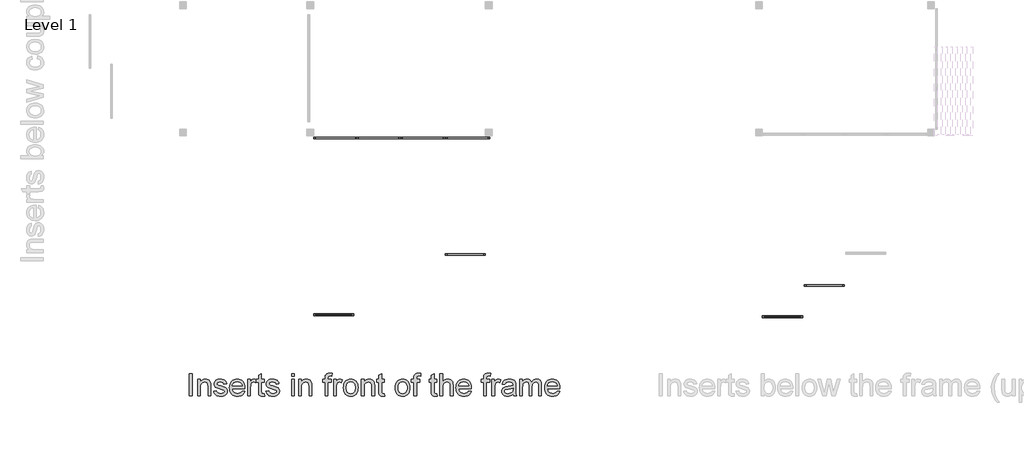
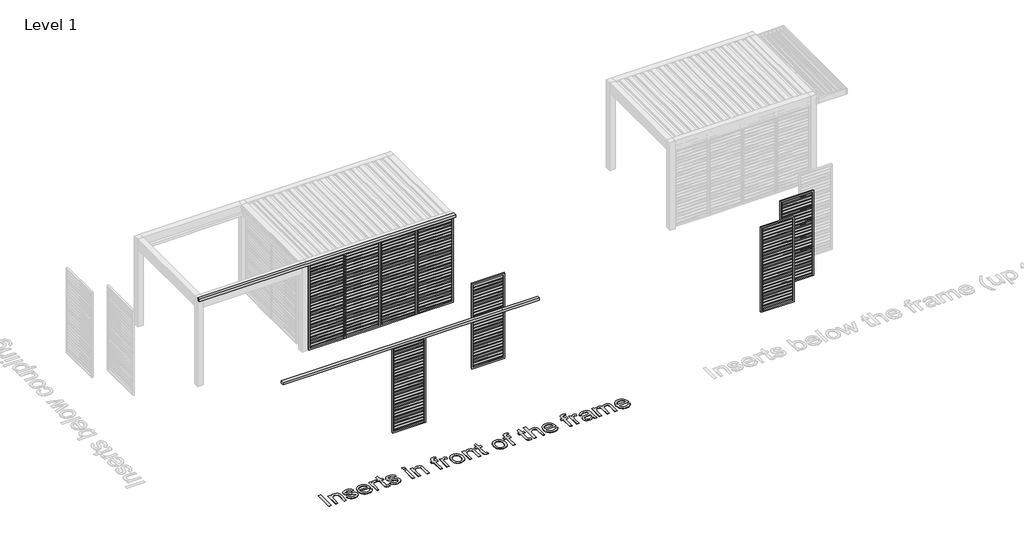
# One storey, part 38 of 80: 9 proxies.
"""IFC4 building model written with IfcOpenShell, lengths in millimetres."""

from ifc_helpers import new_model, si_unit, origin, origin_with_axes, place, context, project, spatial, polyline, outline, extrude, transform, mapped, element, save
from components import generic_models_fa1a9668, generic_models_a1b20559, generic_models_aef4ee00, generic_models_c7c46cfa

model = new_model("IFC4")

# Units and contexts
model_context = context("Model", 3, world=origin())
ifc_project = project(units=[si_unit("LENGTHUNIT", "METRE", prefix="MILLI")], contexts=[model_context])

# Site, building, storey
site = spatial("IfcSite", under=ifc_project)
building = spatial("IfcBuilding", under=site)
storey = spatial("IfcBuildingStorey", under=building, Name="Level 1", Elevation=0.0)

# Proxies
placement = place(None, origin())
generic_models_shape = generic_models_fa1a9668(model_context)
element("IfcBuildingElementProxy", 1, Name="Renson_Amani_Loggia_Paro_Aluminium_Fix : Renson_Amani_Loggia_Paro_Aluminium_Fix", ObjectType="Renson_Amani_Loggia_Paro_Aluminium_Fix : Renson_Amani_Loggia_Paro_Aluminium_Fix", at=placement, inside=storey, context=model_context, shape_type="MappedRepresentation", body=[
    mapped(generic_models_shape, transform((451360.5749426, -43713.443424, 0.0), x_axis=(1.0, 0.0, 0.0), y_axis=(0.0, 1.0, 0.0), z_axis=(0.0, 0.0, 1.0))),
])
generic_models_2_shape = generic_models_a1b20559(model_context)
element("IfcBuildingElementProxy", 2, Name="Renson_Amani_Loggia_Paro_Aluminium_Fix : Renson_Amani_Loggia_Paro_Aluminium_Fix", ObjectType="Renson_Amani_Loggia_Paro_Aluminium_Fix : Renson_Amani_Loggia_Paro_Aluminium_Fix", at=placement, inside=storey, context=model_context, shape_type="MappedRepresentation", body=[
    mapped(generic_models_2_shape, transform((448460.5749426, -41105.318181, 0.0), x_axis=(1.0, 0.0, 0.0), y_axis=(0.0, 1.0, 0.0), z_axis=(0.0, 0.0, 1.0))),
])
generic_models_3_shape = generic_models_aef4ee00(model_context)
element("IfcBuildingElementProxy", 3, Name="Renson_Amani_Loggia_Paro_Aluminium_Fix : Renson_Amani_Loggia_Paro_Aluminium_Fix", ObjectType="Renson_Amani_Loggia_Paro_Aluminium_Fix : Renson_Amani_Loggia_Paro_Aluminium_Fix", at=placement, inside=storey, context=model_context, shape_type="MappedRepresentation", body=[
    mapped(generic_models_3_shape, transform((448410.5749426, -45065.3676714, 0.0), x_axis=(1.0, 0.0, 0.0), y_axis=(0.0, 1.0, 0.0), z_axis=(0.0, 0.0, 1.0))),
])
generic_models_4_shape = generic_models_c7c46cfa(model_context)
element("IfcBuildingElementProxy", 4, Name="Renson_Amani_Loggia_Paro_Aluminium_Fix : Renson_Amani_Loggia_Paro_Aluminium_Fix", ObjectType="Renson_Amani_Loggia_Paro_Aluminium_Fix : Renson_Amani_Loggia_Paro_Aluminium_Fix", at=placement, inside=storey, context=model_context, shape_type="MappedRepresentation", body=[
    mapped(generic_models_4_shape, transform((449410.5749426, -41105.318181, 0.0), x_axis=(1.0, 0.0, 0.0), y_axis=(0.0, 1.0, 0.0), z_axis=(0.0, 0.0, 1.0))),
])
element("IfcBuildingElementProxy", 5, Name="Renson_Amani_Loggia_Paro_Aluminium_Fix : Renson_Amani_Loggia_Paro_Aluminium_Fix", ObjectType="Renson_Amani_Loggia_Paro_Aluminium_Fix : Renson_Amani_Loggia_Paro_Aluminium_Fix", at=placement, inside=storey, context=model_context, shape_type="MappedRepresentation", body=[
    mapped(generic_models_4_shape, transform((450410.5749426, -41105.318181, 0.0), x_axis=(1.0, 0.0, 0.0), y_axis=(0.0, 1.0, 0.0), z_axis=(0.0, 0.0, 1.0))),
])
element("IfcBuildingElementProxy", 6, Name="Renson_Amani_Loggia_Paro_Aluminium_Fix : Renson_Amani_Loggia_Paro_Aluminium_Fix", ObjectType="Renson_Amani_Loggia_Paro_Aluminium_Fix : Renson_Amani_Loggia_Paro_Aluminium_Fix", at=placement, inside=storey, context=model_context, shape_type="MappedRepresentation", body=[
    mapped(generic_models_4_shape, transform((451410.5749426, -41105.318181, 0.0), x_axis=(1.0, 0.0, 0.0), y_axis=(0.0, 1.0, 0.0), z_axis=(0.0, 0.0, 1.0))),
])
element("IfcBuildingElementProxy", 7, Name="Renson_Amani_Loggia_Paro_Aluminium_Fix : Renson_Amani_Loggia_Paro_Aluminium_Fix", ObjectType="Renson_Amani_Loggia_Paro_Aluminium_Fix : Renson_Amani_Loggia_Paro_Aluminium_Fix", at=placement, inside=storey, context=model_context, shape_type="MappedRepresentation", body=[
    mapped(generic_models_shape, transform((458460.5749426, -45109.3676714, 0.0), x_axis=(1.0, 0.0, 0.0), y_axis=(0.0, 1.0, 0.0), z_axis=(0.0, 0.0, 1.0))),
])
element("IfcBuildingElementProxy", 8, Name="Renson_Amani_Loggia_Paro_Aluminium_Fix : Renson_Amani_Loggia_Paro_Aluminium_Fix", ObjectType="Renson_Amani_Loggia_Paro_Aluminium_Fix : Renson_Amani_Loggia_Paro_Aluminium_Fix", at=placement, inside=storey, context=model_context, shape_type="MappedRepresentation", body=[
    mapped(generic_models_shape, transform((459398.6260102, -44407.443424, 0.0), x_axis=(1.0, 0.0, 0.0), y_axis=(0.0, 1.0, 0.0), z_axis=(0.0, 0.0, 1.0))),
])
element("IfcBuildingElementProxy", 9, Name="500mm Arial", ObjectType="500mm Arial", at=placement, inside=storey, context=model_context, shape_type="SweptSolid", body=[
    extrude(outline(polyline([(445183.7434432, -46882.3382736), (445183.7434432, -46380.0567228), (445246.5286371, -46380.0567228), (445246.5286371, -46882.3382736), (445183.7434432, -46882.3382736)])), origin_with_axes(), (0.0, 0.0, 1.0), 5.0),
    extrude(outline(polyline([(445364.2508755, -46882.3382736), (445364.2508755, -46513.4752597), (445427.0360694, -46513.4752597), (445427.0360694, -46564.9787391), (445448.848406, -46539.0124016), (445475.0446697, -46520.4650176), (445505.6248606, -46509.3365873), (445540.5889785, -46505.6271105), (445571.5370514, -46508.6161517), (445599.8792934, -46517.5832753), (445623.5157116, -46531.409507), (445640.3463129, -46548.9758723), (445651.7659832, -46570.2363859), (445659.1696083, -46595.1450627), (445662.4805463, -46655.8455919), (445662.4805463, -46882.3382736), (445599.6953524, -46882.3382736), (445599.6953524, -46664.3068778), (445597.8865993, -46631.8412917), (445592.4603399, -46608.7566965), (445582.4508839, -46592.2173351), (445566.8925412, -46579.3874505), (445546.9502714, -46571.1560909), (445523.7890341, -46568.4123043), (445504.7243161, -46569.9528102), (445487.016163, -46574.5743278), (445470.6645747, -46582.276857), (445455.6695513, -46593.060398), (445443.142403, -46608.151224), (445434.1944399, -46628.7756084), (445428.825662, -46654.9335511), (445427.0360694, -46686.6250521), (445427.0360694, -46882.3382736), (445364.2508755, -46882.3382736)])), origin_with_axes(), (0.0, 0.0, 1.0), 5.0),
    extrude(outline(polyline([(445725.2657401, -46772.4641843), (445788.050934, -46764.6160351), (445797.953091, -46791.4714208), (445817.1136116, -46811.2144212), (445845.655123, -46823.354527), (445883.7002527, -46827.4012289), (445921.2855299, -46823.6917522), (445947.7117199, -46812.5633218), (445963.3467047, -46796.4378277), (445968.5583663, -46777.7371596), (445963.3160478, -46761.7342928), (445947.5890925, -46749.5328733), (445882.9644887, -46731.6292829), (445825.666868, -46715.0592647), (445788.418816, -46700.9111363), (445764.4911579, -46685.4754209), (445747.1547188, -46665.0426417), (445736.6240967, -46640.9157142), (445733.1138894, -46614.3975537), (445735.934318, -46590.0713568), (445744.3956039, -46567.6152267), (445757.7313262, -46547.9182115), (445775.1750641, -46531.8693595), (445792.5115032, -46521.767933), (445815.0902606, -46513.2913187), (445841.1945539, -46507.5431626), (445869.1076002, -46505.6271105), (445909.9731585, -46508.7081222), (445945.5044279, -46517.9511573), (445974.0765962, -46532.4518393), (445994.0648513, -46551.3057916), (446007.3086031, -46575.9079), (446015.6472616, -46607.6530505), (445952.8620678, -46615.5011997), (445944.9372765, -46595.7428709), (445929.2563064, -46580.8589785), (445905.6658735, -46571.5239729), (445874.0126935, -46568.4123043), (445837.960258, -46571.3860171), (445813.925301, -46580.3071555), (445800.4056376, -46593.1830254), (445795.8990832, -46608.0209325), (445797.76915, -46617.6778349), (445803.3793504, -46626.2924049), (445812.9749391, -46633.98727), (445826.8011708, -46640.1492934), (445880.8798241, -46653.5156726), (445973.0342639, -46683.0688595), (445997.3757892, -46697.2016595), (446015.8312026, -46716.5461211), (446027.4654707, -46741.1635579), (446031.3435601, -46771.1152837), (446026.7910204, -46802.0786849), (446013.1334013, -46831.2026762), (445990.8918691, -46856.2033235), (445960.5875897, -46874.7966927), (445923.9833312, -46886.3389903), (445882.8418614, -46890.1864228), (445849.0503673, -46888.3316844), (445819.5355014, -46882.7674692), (445794.2972637, -46873.4937773), (445773.3356542, -46860.5106085), (445756.213813, -46843.8792767), (445742.4948802, -46823.6610953), (445732.1788559, -46799.8560646), (445725.2657401, -46772.4641843)])), origin_with_axes(), (0.0, 0.0, 1.0), 5.0),
    extrude(outline(polyline([(446360.2300638, -46772.4641843), (446421.7889843, -46780.3123336), (446412.3505119, -46804.9680915), (446399.6087657, -46826.6961218), (446383.5637458, -46845.4964246), (446364.2154521, -46861.3689998), (446341.7631541, -46873.9766224), (446316.4061211, -46882.9820671), (446288.1443533, -46888.3853339), (446256.9778505, -46890.1864228), (446218.02068, -46887.0785864), (446183.309481, -46877.755077), (446152.8442532, -46862.2158948), (446126.6249969, -46840.4610398), (446105.54076, -46813.0959843), (446090.4805908, -46780.7262008), (446081.4444893, -46743.3516894), (446078.4324555, -46700.9724499), (446081.4751462, -46657.1561715), (446090.6032182, -46618.5362262), (446105.8166715, -46585.1126141), (446127.1155062, -46556.8853352), (446153.2657847, -46534.4598619), (446183.0335695, -46518.4416667), (446216.4188605, -46508.8307495), (446253.4216579, -46505.6271105), (446289.2326708, -46508.8230853), (446321.6177827, -46518.4110098), (446350.5769935, -46534.390884), (446376.1103033, -46556.7627078), (446396.9531175, -46584.9286731), (446411.840842, -46618.2909715), (446420.7734767, -46656.8496031), (446423.7510216, -46700.6045679), (446423.3831396, -46717.5271397), (446141.2176493, -46717.5271397), (446144.8543161, -46742.5814364), (446152.0854966, -46764.5240646), (446162.9111907, -46783.3550242), (446177.3313985, -46799.0743153), (446194.5490423, -46811.46734), (446213.7670445, -46820.3195005), (446234.985405, -46825.6307968), (446258.2041238, -46827.4012289), (446291.6200717, -46824.1209478), (446319.7630443, -46814.2801045), (446342.6330417, -46797.2655622), (446360.2300638, -46772.4641843)]), holes=[polyline([(446141.2176493, -46654.7419459), (446360.9658278, -46654.7419459), (446352.4738851, -46621.5712526), (446335.8272248, -46597.842864), (446318.7053836, -46584.9669941), (446299.2229663, -46575.7699442), (446277.3799728, -46570.2517143), (446253.1764032, -46568.4123043), (446210.8546453, -46574.2830879), (446192.4413851, -46581.6215672), (446175.8598705, -46591.8954384), (446161.9455005, -46604.6295203), (446151.5336736, -46619.3486323), (446144.6243899, -46636.0527741), (446141.2176493, -46654.7419459)])]), origin_with_axes(), (0.0, 0.0, 1.0), 5.0),
    extrude(outline(polyline([(446855.3992293, -46829.9764029), (446863.2473785, -46884.1776835), (446816.2811105, -46890.1864228), (446786.1454437, -46887.580592), (446763.6739852, -46879.7630996), (446747.7937457, -46867.7149643), (446737.4317362, -46852.4172046), (446731.7295653, -46826.1442988), (446729.8288416, -46781.1707249), (446729.8288416, -46576.2604536), (446682.7399462, -46576.2604536), (446682.7399462, -46525.0022289), (446682.7399462, -46513.4752597), (446729.8288416, -46513.4752597), (446729.8288416, -46423.8346802), (446792.6140355, -46386.9238534), (446792.6140355, -46513.4752597), (446855.3992293, -46513.4752597), (446855.3992293, -46576.2604536), (446792.6140355, -46576.2604536), (446792.6140355, -46779.3313149), (446795.9249734, -46811.7049305), (446806.6548649, -46823.170586), (446828.0533343, -46827.4012289), (446855.3992293, -46829.9764029)])), origin_with_axes(), (0.0, 0.0, 1.0), 5.0),
    extrude(outline(polyline([(446486.5362155, -46882.3382736), (446486.5362155, -46513.4752597), (446541.4732601, -46513.4752597), (446541.4732601, -46568.0444223), (446561.7680835, -46536.4065708), (446580.4687516, -46517.7672163), (446599.2307333, -46508.662137), (446619.7094977, -46505.6271105), (446650.9794673, -46510.4708901), (446682.7399462, -46525.0022289), (446661.7706725, -46581.2881742), (446639.6977528, -46571.6312718), (446617.6248331, -46568.4123043), (446598.8781798, -46571.5086445), (446582.1242206, -46580.7976648), (446568.5892288, -46595.5742583), (446559.4994779, -46615.1333177), (446551.8659265, -46650.2047346), (446549.3214093, -46688.4644621), (446549.3214093, -46882.3382736), (446486.5362155, -46882.3382736)])), origin_with_axes(), (0.0, 0.0, 1.0), 5.0),
    extrude(outline(polyline([(446894.6399755, -46772.4641843), (446957.4251693, -46764.6160351), (446967.3273263, -46791.4714208), (446986.4878469, -46811.2144212), (447015.0293584, -46823.354527), (447053.074488, -46827.4012289), (447090.6597652, -46823.6917522), (447117.0859552, -46812.5633218), (447132.72094, -46796.4378277), (447137.9326016, -46777.7371596), (447132.6902832, -46761.7342928), (447116.9633279, -46749.5328733), (447052.3387241, -46731.6292829), (446995.0411033, -46715.0592647), (446957.7930513, -46700.9111363), (446933.8653932, -46685.4754209), (446916.5289542, -46665.0426417), (446905.9983321, -46640.9157142), (446902.4881247, -46614.3975537), (446905.3085533, -46590.0713568), (446913.7698392, -46567.6152267), (446927.1055615, -46547.9182115), (446944.5492995, -46531.8693595), (446961.8857385, -46521.767933), (446984.4644959, -46513.2913187), (447010.5687892, -46507.5431626), (447038.4818356, -46505.6271105), (447079.3473939, -46508.7081222), (447114.8786632, -46517.9511573), (447143.4508315, -46532.4518393), (447163.4390866, -46551.3057916), (447176.6828384, -46575.9079), (447185.021497, -46607.6530505), (447122.2363031, -46615.5011997), (447114.3115118, -46595.7428709), (447098.6305418, -46580.8589785), (447075.0401088, -46571.5239729), (447043.3869288, -46568.4123043), (447007.3344933, -46571.3860171), (446983.2995363, -46580.3071555), (446969.779873, -46593.1830254), (446965.2733185, -46608.0209325), (446967.1433853, -46617.6778349), (446972.7535858, -46626.2924049), (446982.3491745, -46633.98727), (446996.1754061, -46640.1492934), (447050.2540594, -46653.5156726), (447142.4084992, -46683.0688595), (447166.7500246, -46697.2016595), (447185.205438, -46716.5461211), (447196.8397061, -46741.1635579), (447200.7177954, -46771.1152837), (447196.1652558, -46802.0786849), (447182.5076367, -46831.2026762), (447160.2661044, -46856.2033235), (447129.961825, -46874.7966927), (447093.3575665, -46886.3389903), (447052.2160967, -46890.1864228), (447018.4246026, -46888.3316844), (446988.9097367, -46882.7674692), (446963.671499, -46873.4937773), (446942.7098895, -46860.5106085), (446925.5880483, -46843.8792767), (446911.8691156, -46823.6610953), (446901.5530913, -46799.8560646), (446894.6399755, -46772.4641843)])), origin_with_axes(), (0.0, 0.0, 1.0), 5.0),
    extrude(outline(polyline([(447467.5548693, -46442.8419167), (447467.5548693, -46380.0567228), (447530.3400631, -46380.0567228), (447530.3400631, -46442.8419167), (447467.5548693, -46442.8419167)])), origin_with_axes(), (0.0, 0.0, 1.0), 5.0),
    extrude(outline(polyline([(447467.5548693, -46882.3382736), (447467.5548693, -46513.4752597), (447530.3400631, -46513.4752597), (447530.3400631, -46882.3382736), (447467.5548693, -46882.3382736)])), origin_with_axes(), (0.0, 0.0, 1.0), 5.0),
    extrude(outline(polyline([(447624.5178539, -46882.3382736), (447624.5178539, -46513.4752597), (447687.3030477, -46513.4752597), (447687.3030477, -46564.9787391), (447709.1153844, -46539.0124016), (447735.3116481, -46520.4650176), (447765.891839, -46509.3365873), (447800.8559569, -46505.6271105), (447831.8040298, -46508.6161517), (447860.1462718, -46517.5832753), (447883.78269, -46531.409507), (447900.6132913, -46548.9758723), (447912.0329615, -46570.2363859), (447919.4365867, -46595.1450627), (447922.7475246, -46655.8455919), (447922.7475246, -46882.3382736), (447859.9623308, -46882.3382736), (447859.9623308, -46664.3068778), (447858.1535777, -46631.8412917), (447852.7273182, -46608.7566965), (447842.7178623, -46592.2173351), (447827.1595196, -46579.3874505), (447807.2172497, -46571.1560909), (447784.0560125, -46568.4123043), (447764.9912945, -46569.9528102), (447747.2831414, -46574.5743278), (447730.9315531, -46582.276857), (447715.9365297, -46593.060398), (447703.4093813, -46608.151224), (447694.4614182, -46628.7756084), (447689.0926404, -46654.9335511), (447687.3030477, -46686.6250521), (447687.3030477, -46882.3382736), (447624.5178539, -46882.3382736)])), origin_with_axes(), (0.0, 0.0, 1.0), 5.0),
    extrude(outline(polyline([(448220.9771954, -46882.3382736), (448220.9771954, -46576.2604536), (448166.0401508, -46576.2604536), (448166.0401508, -46513.4752597), (448220.9771954, -46513.4752597), (448220.9771954, -46476.3191782), (448222.6326644, -46445.5703748), (448227.5990713, -46423.9573076), (448240.2296865, -46403.0800043), (448259.7274322, -46386.5559714), (448287.0120135, -46375.795423), (448323.0031354, -46372.2085736), (448380.2700993, -46379.0757042), (448371.0730494, -46437.9368234), (448334.8979866, -46434.9937674), (448311.0316421, -46437.5995982), (448295.3506721, -46445.4170906), (448286.65946, -46460.3469683), (448283.7623892, -46484.2899548), (448283.7623892, -46513.4752597), (448354.3957323, -46513.4752597), (448354.3957323, -46576.2604536), (448283.7623892, -46576.2604536), (448283.7623892, -46882.3382736), (448220.9771954, -46882.3382736)])), origin_with_axes(), (0.0, 0.0, 1.0), 5.0),
    extrude(outline(polyline([(448409.3327769, -46882.3382736), (448409.3327769, -46513.4752597), (448464.2698215, -46513.4752597), (448464.2698215, -46568.0444223), (448484.5646449, -46536.4065708), (448503.265313, -46517.7672163), (448522.0272948, -46508.662137), (448542.5060592, -46505.6271105), (448573.7760288, -46510.4708901), (448605.5365077, -46525.0022289), (448584.567234, -46581.2881742), (448562.4943143, -46571.6312718), (448540.4213945, -46568.4123043), (448521.6747412, -46571.5086445), (448504.920782, -46580.7976648), (448491.3857903, -46595.5742583), (448482.2960393, -46615.1333177), (448474.6624879, -46650.2047346), (448472.1179708, -46688.4644621), (448472.1179708, -46882.3382736), (448409.3327769, -46882.3382736)])), origin_with_axes(), (0.0, 0.0, 1.0), 5.0),
    extrude(outline(polyline([(448629.0809554, -46697.9067666), (448632.4761996, -46650.1357567), (448642.6619324, -46608.9712943), (448659.6381536, -46574.4133794), (448683.4048633, -46546.462012), (448707.3325214, -46528.5967426), (448733.743383, -46515.8358359), (448762.6374481, -46508.1792918), (448794.0147166, -46505.6271105), (448828.6531057, -46508.7349469), (448859.9728926, -46518.0584563), (448887.9740774, -46533.5976384), (448912.65666, -46555.3524935), (448932.8020313, -46582.5872575), (448947.1915823, -46614.5661663), (448955.8253129, -46651.2892201), (448958.7032231, -46692.7564187), (448953.6141888, -46756.185406), (448947.252896, -46782.2207214), (448938.347086, -46804.4699179), (448927.0078899, -46823.6879201), (448913.3464387, -46840.6296524), (448897.3627325, -46855.2951148), (448879.0567711, -46867.6843074), (448838.3291686, -46884.560894), (448794.0147166, -46890.1864228), (448758.8704897, -46887.0900827), (448727.2594628, -46877.8010623), (448699.181636, -46862.3193617), (448674.6370091, -46840.6449808), (448654.7062356, -46813.1458016), (448640.4699688, -46780.1897062), (448631.9282087, -46741.7766946), (448629.0809554, -46697.9067666)]), holes=[polyline([(448691.8661492, -46697.7841393), (448693.6825666, -46728.2378707), (448699.1318186, -46754.6065792), (448708.2139054, -46776.8902646), (448720.9288268, -46795.088927), (448736.3951991, -46809.2255591), (448753.7316381, -46819.3231535), (448772.9381439, -46825.3817101), (448794.0147166, -46827.4012289), (448814.9839903, -46825.3702138), (448834.113854, -46819.2771682), (448851.4043078, -46809.1220923), (448866.8553516, -46794.904986), (448879.5702731, -46776.5262147), (448888.6523598, -46753.8861436), (448894.1016119, -46726.9847727), (448895.9180292, -46695.822102), (448894.0901156, -46666.3340608), (448888.6063746, -46640.6551311), (448879.4668062, -46618.785313), (448866.6714106, -46600.7246063), (448851.1628852, -46586.5879742), (448833.8839278, -46576.4903798), (448814.8345382, -46570.4318232), (448794.0147166, -46568.4123043), (448772.9381439, -46570.424159), (448753.7316381, -46576.459723), (448736.3951991, -46586.5189963), (448720.9288268, -46600.6019789), (448708.2139054, -46618.7469919), (448699.1318186, -46640.9923563), (448693.6825666, -46667.3380721), (448691.8661492, -46697.7841393)])]), origin_with_axes(), (0.0, 0.0, 1.0), 5.0),
    extrude(outline(polyline([(449029.3365661, -46882.3382736), (449029.3365661, -46513.4752597), (449092.12176, -46513.4752597), (449092.12176, -46564.9787391), (449113.9340966, -46539.0124016), (449140.1303604, -46520.4650176), (449170.7105512, -46509.3365873), (449205.6746692, -46505.6271105), (449236.622742, -46508.6161517), (449264.964984, -46517.5832753), (449288.6014022, -46531.409507), (449305.4320035, -46548.9758723), (449316.8516738, -46570.2363859), (449324.2552989, -46595.1450627), (449327.5662369, -46655.8455919), (449327.5662369, -46882.3382736), (449264.781043, -46882.3382736), (449264.781043, -46664.3068778), (449262.9722899, -46631.8412917), (449257.5460305, -46608.7566965), (449247.5365745, -46592.2173351), (449231.9782318, -46579.3874505), (449212.035962, -46571.1560909), (449188.8747247, -46568.4123043), (449169.8100067, -46569.9528102), (449152.1018536, -46574.5743278), (449135.7502653, -46582.276857), (449120.7552419, -46593.060398), (449108.2280936, -46608.151224), (449099.2801305, -46628.7756084), (449093.9113526, -46654.9335511), (449092.12176, -46686.6250521), (449092.12176, -46882.3382736), (449029.3365661, -46882.3382736)])), origin_with_axes(), (0.0, 0.0, 1.0), 5.0),
    extrude(outline(polyline([(449547.3144153, -46829.9764029), (449555.1625646, -46884.1776835), (449508.1962965, -46890.1864228), (449478.0606298, -46887.580592), (449455.5891712, -46879.7630996), (449439.7089318, -46867.7149643), (449429.3469222, -46852.4172046), (449423.6447513, -46826.1442988), (449421.7440277, -46781.1707249), (449421.7440277, -46576.2604536), (449374.6551323, -46576.2604536), (449374.6551323, -46513.4752597), (449421.7440277, -46513.4752597), (449421.7440277, -46423.8346802), (449484.5292215, -46386.9238534), (449484.5292215, -46513.4752597), (449547.3144153, -46513.4752597), (449547.3144153, -46576.2604536), (449484.5292215, -46576.2604536), (449484.5292215, -46779.3313149), (449487.8401595, -46811.7049305), (449498.570051, -46823.170586), (449519.9685204, -46827.4012289), (449547.3144153, -46829.9764029)])), origin_with_axes(), (0.0, 0.0, 1.0), 5.0),
    extrude(outline(polyline([(449790.6070415, -46697.9067666), (449794.0022857, -46650.1357567), (449804.1880185, -46608.9712943), (449821.1642397, -46574.4133794), (449844.9309494, -46546.462012), (449868.8586075, -46528.5967426), (449895.2694691, -46515.8358359), (449924.1635342, -46508.1792918), (449955.5408027, -46505.6271105), (449990.1791918, -46508.7349469), (450021.4989787, -46518.0584563), (450049.5001635, -46533.5976384), (450074.1827461, -46555.3524935), (450094.3281174, -46582.5872575), (450108.7176684, -46614.5661663), (450117.351399, -46651.2892201), (450120.2293092, -46692.7564187), (450115.1402749, -46756.185406), (450108.7789821, -46782.2207214), (450099.8731721, -46804.4699179), (450088.533976, -46823.6879201), (450074.8725248, -46840.6296524), (450058.8888186, -46855.2951148), (450040.5828572, -46867.6843074), (449999.8552547, -46884.560894), (449955.5408027, -46890.1864228), (449920.3965758, -46887.0900827), (449888.785549, -46877.8010623), (449860.7077221, -46862.3193617), (449836.1630952, -46840.6449808), (449816.2323217, -46813.1458016), (449801.9960549, -46780.1897062), (449793.4542948, -46741.7766946), (449790.6070415, -46697.9067666)]), holes=[polyline([(449853.3922353, -46697.7841393), (449855.2086527, -46728.2378707), (449860.6579047, -46754.6065792), (449869.7399915, -46776.8902646), (449882.454913, -46795.088927), (449897.9212852, -46809.2255591), (449915.2577242, -46819.3231535), (449934.46423, -46825.3817101), (449955.5408027, -46827.4012289), (449976.5100764, -46825.3702138), (449995.6399401, -46819.2771682), (450012.9303939, -46809.1220923), (450028.3814377, -46794.904986), (450041.0963592, -46776.5262147), (450050.1784459, -46753.8861436), (450055.627698, -46726.9847727), (450057.4441153, -46695.822102), (450055.6162017, -46666.3340608), (450050.1324607, -46640.6551311), (450040.9928924, -46618.785313), (450028.1974967, -46600.7246063), (450012.6889713, -46586.5879742), (449995.4100139, -46576.4903798), (449976.3606243, -46570.4318232), (449955.5408027, -46568.4123043), (449934.46423, -46570.424159), (449915.2577242, -46576.459723), (449897.9212852, -46586.5189963), (449882.454913, -46600.6019789), (449869.7399915, -46618.7469919), (449860.6579047, -46640.9923563), (449855.2086527, -46667.3380721), (449853.3922353, -46697.7841393)])]), origin_with_axes(), (0.0, 0.0, 1.0), 5.0),
    extrude(outline(polyline([(450206.5589507, -46882.3382736), (450206.5589507, -46576.2604536), (450151.6219061, -46576.2604536), (450151.6219061, -46513.4752597), (450206.5589507, -46513.4752597), (450206.5589507, -46476.3191782), (450208.2144197, -46445.5703748), (450213.1808266, -46423.9573076), (450225.8114418, -46403.0800043), (450245.3091875, -46386.5559714), (450272.5937688, -46375.795423), (450308.5848907, -46372.2085736), (450365.8518546, -46379.0757042), (450356.6548047, -46437.9368234), (450320.4797419, -46434.9937674), (450296.6133974, -46437.5995982), (450280.9324274, -46445.4170906), (450272.2412153, -46460.3469683), (450269.3441445, -46484.2899548), (450269.3441445, -46513.4752597), (450339.9774876, -46513.4752597), (450339.9774876, -46576.2604536), (450269.3441445, -46576.2604536), (450269.3441445, -46882.3382736), (450206.5589507, -46882.3382736)])), origin_with_axes(), (0.0, 0.0, 1.0), 5.0),
    extrude(outline(polyline([(450724.5367999, -46829.9764029), (450732.3849491, -46884.1776835), (450685.4186811, -46890.1864228), (450655.2830143, -46887.580592), (450632.8115558, -46879.7630996), (450616.9313163, -46867.7149643), (450606.5693068, -46852.4172046), (450600.8671359, -46826.1442988), (450598.9664122, -46781.1707249), (450598.9664122, -46576.2604536), (450551.8775168, -46576.2604536), (450551.8775168, -46513.4752597), (450598.9664122, -46513.4752597), (450598.9664122, -46423.8346802), (450661.7516061, -46386.9238534), (450661.7516061, -46513.4752597), (450724.5367999, -46513.4752597), (450724.5367999, -46576.2604536), (450661.7516061, -46576.2604536), (450661.7516061, -46779.3313149), (450665.062544, -46811.7049305), (450675.7924356, -46823.170586), (450697.1909049, -46827.4012289), (450724.5367999, -46829.9764029)])), origin_with_axes(), (0.0, 0.0, 1.0), 5.0),
    extrude(outline(polyline([(450787.3219938, -46882.3382736), (450787.3219938, -46380.0567228), (450850.1071876, -46380.0567228), (450850.1071876, -46564.7334844), (450873.1687902, -46538.8744458), (450899.0661498, -46520.403704), (450927.7992665, -46509.3212589), (450959.3681402, -46505.6271105), (450997.2906425, -46509.658484), (451029.8788559, -46521.7526046), (451055.5386251, -46540.9591105), (451072.6757947, -46566.3276397), (451082.3326971, -46601.1844587), (451085.5516645, -46648.855834), (451085.5516645, -46882.3382736), (451022.7664707, -46882.3382736), (451022.7664707, -46655.3550825), (451017.7694069, -46616.0530227), (451011.5230772, -46601.046503), (451002.7782156, -46589.1363234), (450991.7417557, -46580.0695651), (450978.6206312, -46573.5933091), (450946.1243883, -46568.4123043), (450919.5908994, -46571.9071833), (450894.6822227, -46582.3918202), (450874.0501741, -46598.8545394), (450860.3465698, -46620.2836657), (450852.6670331, -46648.7638635), (450850.1071876, -46686.3797975), (450850.1071876, -46882.3382736), (450787.3219938, -46882.3382736)])), origin_with_axes(), (0.0, 0.0, 1.0), 5.0),
    extrude(outline(polyline([(451430.1344667, -46772.4641843), (451491.6933872, -46780.3123336), (451482.2549147, -46804.9680915), (451469.5131686, -46826.6961218), (451453.4681486, -46845.4964246), (451434.1198549, -46861.3689998), (451411.6675569, -46873.9766224), (451386.310524, -46882.9820671), (451358.0487561, -46888.3853339), (451326.8822533, -46890.1864228), (451287.9250829, -46887.0785864), (451253.2138838, -46877.755077), (451222.7486561, -46862.2158948), (451196.5293997, -46840.4610398), (451175.4451629, -46813.0959843), (451160.3849937, -46780.7262008), (451151.3488922, -46743.3516894), (451148.3368584, -46700.9724499), (451151.379549, -46657.1561715), (451160.507621, -46618.5362262), (451175.7210744, -46585.1126141), (451197.0199091, -46556.8853352), (451223.1701875, -46534.4598619), (451252.9379723, -46518.4416667), (451286.3232634, -46508.8307495), (451323.3260607, -46505.6271105), (451359.1370737, -46508.8230853), (451391.5221856, -46518.4110098), (451420.4813964, -46534.390884), (451446.0147061, -46556.7627078), (451466.8575204, -46584.9286731), (451481.7452449, -46618.2909715), (451490.6778796, -46656.8496031), (451493.6554245, -46700.6045679), (451493.2875425, -46717.5271397), (451211.1220522, -46717.5271397), (451214.758719, -46742.5814364), (451221.9898995, -46764.5240646), (451232.8155936, -46783.3550242), (451247.2358014, -46799.0743153), (451264.4534452, -46811.46734), (451283.6714473, -46820.3195005), (451304.8898078, -46825.6307968), (451328.1085267, -46827.4012289), (451361.5244746, -46824.1209478), (451389.6674472, -46814.2801045), (451412.5374446, -46797.2655622), (451430.1344667, -46772.4641843)]), holes=[polyline([(451211.1220522, -46654.7419459), (451430.8702307, -46654.7419459), (451422.3782879, -46621.5712526), (451405.7316276, -46597.842864), (451388.6097865, -46584.9669941), (451369.1273691, -46575.7699442), (451347.2843757, -46570.2517143), (451323.0808061, -46568.4123043), (451280.7590482, -46574.2830879), (451262.3457879, -46581.6215672), (451245.7642734, -46591.8954384), (451231.8499034, -46604.6295203), (451221.4380765, -46619.3486323), (451214.5287928, -46636.0527741), (451211.1220522, -46654.7419459)])]), origin_with_axes(), (0.0, 0.0, 1.0), 5.0),
    extrude(outline(polyline([(451768.3406476, -46882.3382736), (451768.3406476, -46576.2604536), (451713.4036029, -46576.2604536), (451713.4036029, -46513.4752597), (451768.3406476, -46513.4752597), (451768.3406476, -46476.3191782), (451769.9961165, -46445.5703748), (451774.9625235, -46423.9573076), (451787.5931386, -46403.0800043), (451807.0908844, -46386.5559714), (451834.3754657, -46375.795423), (451870.3665876, -46372.2085736), (451927.6335515, -46379.0757042), (451918.4365016, -46437.9368234), (451882.2614387, -46434.9937674), (451858.3950943, -46437.5995982), (451842.7141243, -46445.4170906), (451834.0229121, -46460.3469683), (451831.1258414, -46484.2899548), (451831.1258414, -46513.4752597), (451901.7591845, -46513.4752597), (451901.7591845, -46576.2604536), (451831.1258414, -46576.2604536), (451831.1258414, -46882.3382736), (451768.3406476, -46882.3382736)])), origin_with_axes(), (0.0, 0.0, 1.0), 5.0),
    extrude(outline(polyline([(451956.6962291, -46882.3382736), (451956.6962291, -46513.4752597), (452011.6332737, -46513.4752597), (452011.6332737, -46568.0444223), (452031.9280971, -46536.4065708), (452050.6287652, -46517.7672163), (452069.3907469, -46508.662137), (452089.8695113, -46505.6271105), (452121.1394809, -46510.4708901), (452152.8999599, -46525.0022289), (452131.9306861, -46581.2881742), (452109.8577664, -46571.6312718), (452087.7848467, -46568.4123043), (452069.0381934, -46571.5086445), (452052.2842342, -46580.7976648), (452038.7492424, -46595.5742583), (452029.6594915, -46615.1333177), (452022.0259401, -46650.2047346), (452019.4814229, -46688.4644621), (452019.4814229, -46882.3382736), (451956.6962291, -46882.3382736)])), origin_with_axes(), (0.0, 0.0, 1.0), 5.0),
    extrude(outline(polyline([(452427.5851829, -46835.2493782), (452397.5874719, -46860.970461), (452366.7007127, -46877.8010623), (452334.2197982, -46887.0900827), (452299.4396213, -46890.1864228), (452271.4844217, -46888.3240202), (452246.9704517, -46882.7368124), (452225.8977112, -46873.4247994), (452208.2662001, -46860.3879812), (452194.3441659, -46844.4540923), (452184.3998557, -46826.4508671), (452178.4332696, -46806.3783058), (452176.4444075, -46784.2364082), (452179.4487772, -46758.208757), (452188.4618861, -46734.5723388), (452202.3647598, -46714.3388291), (452220.038424, -46698.5199033), (452240.8084283, -46686.5637385), (452264.0003224, -46677.9185116), (452318.3242303, -46668.476207), (452382.5196385, -46658.5433932), (452427.2173009, -46646.8937966), (452427.5851829, -46632.9142808), (452423.2625695, -46604.8939355), (452410.2947291, -46586.5611494), (452397.2195899, -46578.6210297), (452381.2933652, -46572.9495156), (452340.8876594, -46568.4123043), (452303.4863232, -46571.4320024), (452277.3667016, -46580.4910965), (452259.5550816, -46597.2450557), (452247.0777506, -46623.349349), (452184.2925568, -46615.5011997), (452195.1910609, -46581.1655468), (452211.4545108, -46554.1875339), (452234.6004196, -46533.5554853), (452266.1463007, -46518.2577257), (452304.7279249, -46508.7847643), (452348.9810633, -46505.6271105), (452391.4254485, -46508.4168823), (452425.0713226, -46516.7861977), (452450.4398519, -46529.3708276), (452468.0522024, -46544.806543), (452479.7324557, -46563.8904215), (452487.3046935, -46587.4195408), (452490.3703768, -46642.3565854), (452490.3703768, -46720.4701957), (452493.5586874, -46829.5472073), (452498.2798397, -46856.5098918), (452506.0666752, -46882.3382736), (452443.2814814, -46882.3382736), (452433.2260402, -46860.5106085), (452427.5851829, -46835.2493782)]), holes=[polyline([(452427.5851829, -46709.6789905), (452385.4013808, -46720.1329705), (452326.2950069, -46728.9314816), (452272.2776673, -46739.1095501), (452258.2215094, -46746.0686512), (452247.8135146, -46755.6642399), (452241.3755797, -46767.1605522), (452239.2296014, -46779.8218242), (452243.9047684, -46798.4918355), (452257.9302695, -46813.7895951), (452280.9995363, -46823.9983205), (452312.8060004, -46827.4012289), (452346.5285166, -46823.6457669), (452376.3269583, -46812.3793808), (452400.4845426, -46795.7787058), (452417.2844871, -46776.020377), (452424.7340975, -46755.6642399), (452427.2173009, -46727.4599536), (452427.5851829, -46709.6789905)])]), origin_with_axes(), (0.0, 0.0, 1.0), 5.0),
    extrude(outline(polyline([(452576.7000183, -46882.3382736), (452576.7000183, -46513.4752597), (452639.4852121, -46513.4752597), (452639.4852121, -46574.1757889), (452658.3698212, -46546.2933994), (452682.6500329, -46524.4504059), (452711.4981127, -46510.3329344), (452744.0863261, -46505.6271105), (452779.0044588, -46510.4249049), (452806.9941473, -46524.8182879), (452827.9021073, -46547.8568979), (452841.5750548, -46578.5903729), (452864.4603806, -46546.6689456), (452890.5646738, -46523.8679261), (452919.8879345, -46510.1873144), (452952.4301627, -46505.6271105), (452977.5649336, -46507.524002), (452999.626357, -46513.2146767), (453018.6144329, -46522.6991343), (453034.5291613, -46535.9773751), (453047.1099591, -46553.2026831), (453056.0962433, -46574.5283425), (453061.4880138, -46599.9543533), (453063.2852706, -46629.4807155), (453063.2852706, -46882.3382736), (453000.5000767, -46882.3382736), (453000.5000767, -46656.4587285), (452999.0438772, -46625.1427737), (452994.6752785, -46604.0355442), (452986.4899041, -46589.5808475), (452973.5833774, -46578.2224909), (452956.9827024, -46570.864851), (452937.7148829, -46568.4123043), (452919.9224235, -46569.983467), (452903.7011268, -46574.6969551), (452889.0509927, -46582.5527685), (452875.9720214, -46593.5509073), (452865.2153051, -46608.0132683), (452857.5319364, -46626.2617481), (452852.9219151, -46648.2963468), (452851.3852414, -46674.1170643), (452851.3852414, -46882.3382736), (452788.6000475, -46882.3382736), (452788.6000475, -46649.4689706), (452784.9672128, -46613.9683581), (452774.0687087, -46588.6458141), (452765.6419118, -46579.7936536), (452754.8928597, -46573.4706818), (452726.4279903, -46568.4123043), (452702.2397491, -46571.784556), (452679.9522316, -46581.9013108), (452661.5581318, -46598.5173143), (452649.050144, -46621.3873117), (452641.8764451, -46653.1171337), (452639.4852121, -46696.3126113), (452639.4852121, -46882.3382736), (452576.7000183, -46882.3382736)])), origin_with_axes(), (0.0, 0.0, 1.0), 5.0),
    extrude(outline(polyline([(453415.716222, -46772.4641843), (453477.2751425, -46780.3123336), (453467.83667, -46804.9680915), (453455.0949239, -46826.6961218), (453439.0499039, -46845.4964246), (453419.7016102, -46861.3689998), (453397.2493122, -46873.9766224), (453371.8922793, -46882.9820671), (453343.6305114, -46888.3853339), (453312.4640086, -46890.1864228), (453273.5068382, -46887.0785864), (453238.7956391, -46877.755077), (453208.3304114, -46862.2158948), (453182.111155, -46840.4610398), (453161.0269182, -46813.0959843), (453145.966749, -46780.7262008), (453136.9306475, -46743.3516894), (453133.9186137, -46700.9724499), (453136.9613043, -46657.1561715), (453146.0893763, -46618.5362262), (453161.3028297, -46585.1126141), (453182.6016644, -46556.8853352), (453208.7519428, -46534.4598619), (453238.5197276, -46518.4416667), (453271.9050187, -46508.8307495), (453308.907816, -46505.6271105), (453344.718829, -46508.8230853), (453377.1039409, -46518.4110098), (453406.0631517, -46534.390884), (453431.5964614, -46556.7627078), (453452.4392757, -46584.9286731), (453467.3270002, -46618.2909715), (453476.2596349, -46656.8496031), (453479.2371798, -46700.6045679), (453478.8692978, -46717.5271397), (453196.7038075, -46717.5271397), (453200.3404743, -46742.5814364), (453207.5716548, -46764.5240646), (453218.3973489, -46783.3550242), (453232.8175567, -46799.0743153), (453250.0352005, -46811.46734), (453269.2532026, -46820.3195005), (453290.4715631, -46825.6307968), (453313.690282, -46827.4012289), (453347.1062299, -46824.1209478), (453375.2492025, -46814.2801045), (453398.1191999, -46797.2655622), (453415.716222, -46772.4641843)]), holes=[polyline([(453196.7038075, -46654.7419459), (453416.451986, -46654.7419459), (453407.9600432, -46621.5712526), (453391.3133829, -46597.842864), (453374.1915418, -46584.9669941), (453354.7091244, -46575.7699442), (453332.866131, -46570.2517143), (453308.6625614, -46568.4123043), (453266.3408035, -46574.2830879), (453247.9275432, -46581.6215672), (453231.3460287, -46591.8954384), (453217.4316587, -46604.6295203), (453207.0198318, -46619.3486323), (453200.1105481, -46636.0527741), (453196.7038075, -46654.7419459)])]), origin_with_axes(), (0.0, 0.0, 1.0), 5.0),
])

save(model, "model.ifc")
